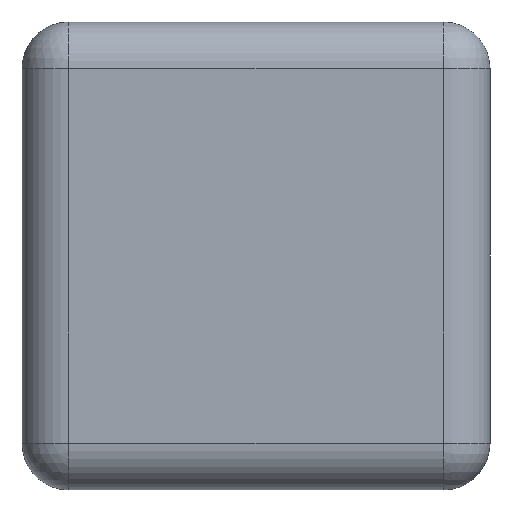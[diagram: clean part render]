
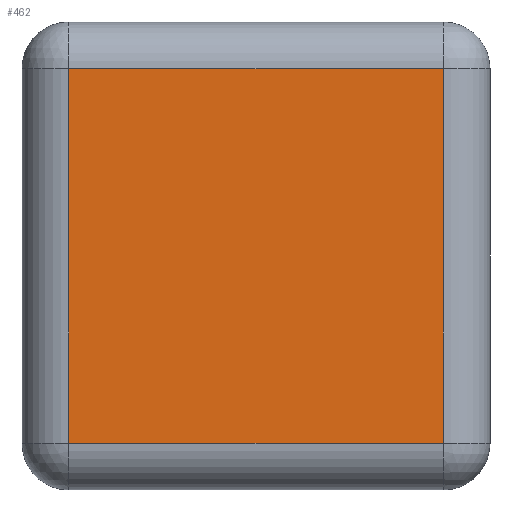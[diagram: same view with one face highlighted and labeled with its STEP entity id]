
A CAD part, top view. The second image highlights one B-rep face of the part: STEP entity #462.
In plain terms, the highlighted planar face has unit normal (0, 0, 1).
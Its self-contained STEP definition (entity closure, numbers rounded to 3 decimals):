
#9 = EDGE_CURVE ( 'NONE', #534, #441, #767, .T. ) ;
#25 = ORIENTED_EDGE ( 'NONE', *, *, #9, .T. ) ;
#46 = CARTESIAN_POINT ( 'NONE',  ( -12., 12., 1.5 ) ) ;
#61 = CARTESIAN_POINT ( 'NONE',  ( 12., 12., 1.5 ) ) ;
#74 = PLANE ( 'NONE',  #774 ) ;
#83 = ORIENTED_EDGE ( 'NONE', *, *, #501, .T. ) ;
#150 = DIRECTION ( 'NONE',  ( 0., 1., 0. ) ) ;
#186 = DIRECTION ( 'NONE',  ( 1., 0., 0. ) ) ;
#222 = CARTESIAN_POINT ( 'NONE',  ( 15., 15., 1.5 ) ) ;
#270 = LINE ( 'NONE', #612, #657 ) ;
#286 = VECTOR ( 'NONE', #395, 1000. ) ;
#327 = DIRECTION ( 'NONE',  ( 0., -1., 0. ) ) ;
#336 = CARTESIAN_POINT ( 'NONE',  ( 12., 12., 1.5 ) ) ;
#395 = DIRECTION ( 'NONE',  ( -1., 0., 0. ) ) ;
#434 = ORIENTED_EDGE ( 'NONE', *, *, #827, .T. ) ;
#441 = VERTEX_POINT ( 'NONE', #61 ) ;
#462 = ADVANCED_FACE ( 'NONE', ( #577 ), #74, .T. ) ;
#488 = DIRECTION ( 'NONE',  ( 1., 0., 0. ) ) ;
#501 = EDGE_CURVE ( 'NONE', #441, #727, #662, .T. ) ;
#530 = ORIENTED_EDGE ( 'NONE', *, *, #918, .T. ) ;
#534 = VERTEX_POINT ( 'NONE', #868 ) ;
#577 = FACE_OUTER_BOUND ( 'NONE', #949, .T. ) ;
#599 = VECTOR ( 'NONE', #150, 1000. ) ;
#612 = CARTESIAN_POINT ( 'NONE',  ( 12., -12., 1.5 ) ) ;
#657 = VECTOR ( 'NONE', #186, 1000. ) ;
#662 = LINE ( 'NONE', #853, #286 ) ;
#681 = CARTESIAN_POINT ( 'NONE',  ( -12., -12., 1.5 ) ) ;
#727 = VERTEX_POINT ( 'NONE', #46 ) ;
#749 = DIRECTION ( 'NONE',  ( 0., 0., 1. ) ) ;
#767 = LINE ( 'NONE', #336, #599 ) ;
#771 = VECTOR ( 'NONE', #327, 1000. ) ;
#774 = AXIS2_PLACEMENT_3D ( 'NONE', #222, #749, #488 ) ;
#813 = VERTEX_POINT ( 'NONE', #1029 ) ;
#827 = EDGE_CURVE ( 'NONE', #727, #813, #1116, .T. ) ;
#853 = CARTESIAN_POINT ( 'NONE',  ( -15., 12., 1.5 ) ) ;
#868 = CARTESIAN_POINT ( 'NONE',  ( 12., -12., 1.5 ) ) ;
#918 = EDGE_CURVE ( 'NONE', #813, #534, #270, .T. ) ;
#949 = EDGE_LOOP ( 'NONE', ( #83, #434, #530, #25 ) ) ;
#1029 = CARTESIAN_POINT ( 'NONE',  ( -12., -12., 1.5 ) ) ;
#1116 = LINE ( 'NONE', #681, #771 ) ;
